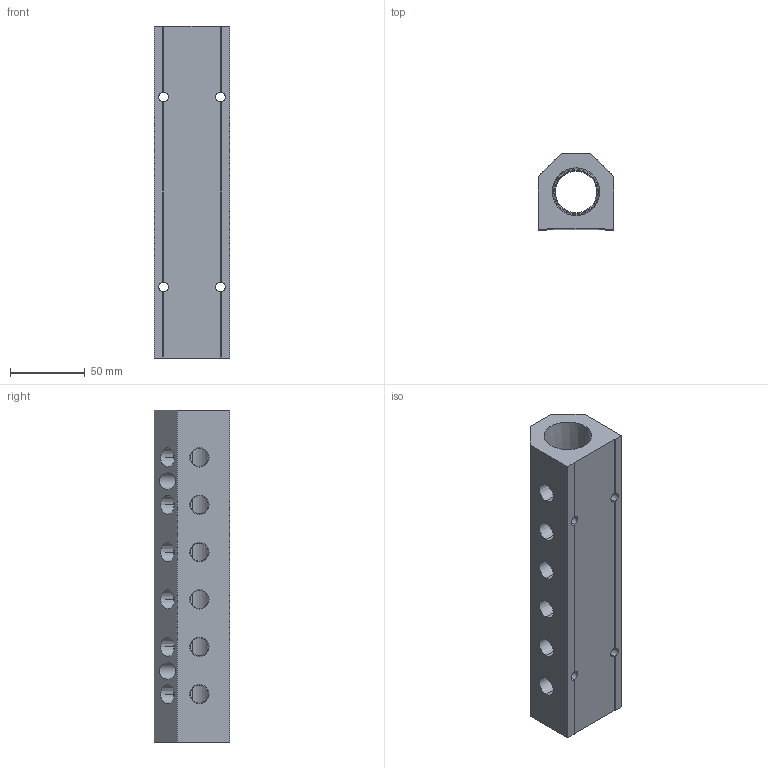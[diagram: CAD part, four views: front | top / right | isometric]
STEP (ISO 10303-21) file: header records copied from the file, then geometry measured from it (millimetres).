
FILE_DESCRIPTION (( 'STEP AP214' ), '1' );
FILE_NAME ('ALM6AB-N4N16-222R.STEP', '2023-11-02T06:49:22', ( '' ), ( '' ), 'SwSTEP 2.0', 'SolidWorks 2020', '' );
FILE_SCHEMA (( 'AUTOMOTIVE_DESIGN' ));
Length unit declared in the file: millimetre
Products named in the file (1): ALM6AB-N4N16-222R
Bounding box: 50.8 x 50.8 x 222 mm (x, y, z)
Volume: 346656.4 mm3; surface area: 70720.8 mm2
Topology: 1 solids, 1 shells, 323 faces, 866 edges, 572 vertices
Faces by surface type: plane 215, bspline 54, cone 32, cylinder 22
Entity records: 17408 total; most frequent: CARTESIAN_POINT 6720, ORIENTED_EDGE 1732, DIRECTION 1314, EDGE_CURVE 866, LINE 638, VECTOR 638, VERTEX_POINT 572, EDGE_LOOP 384
